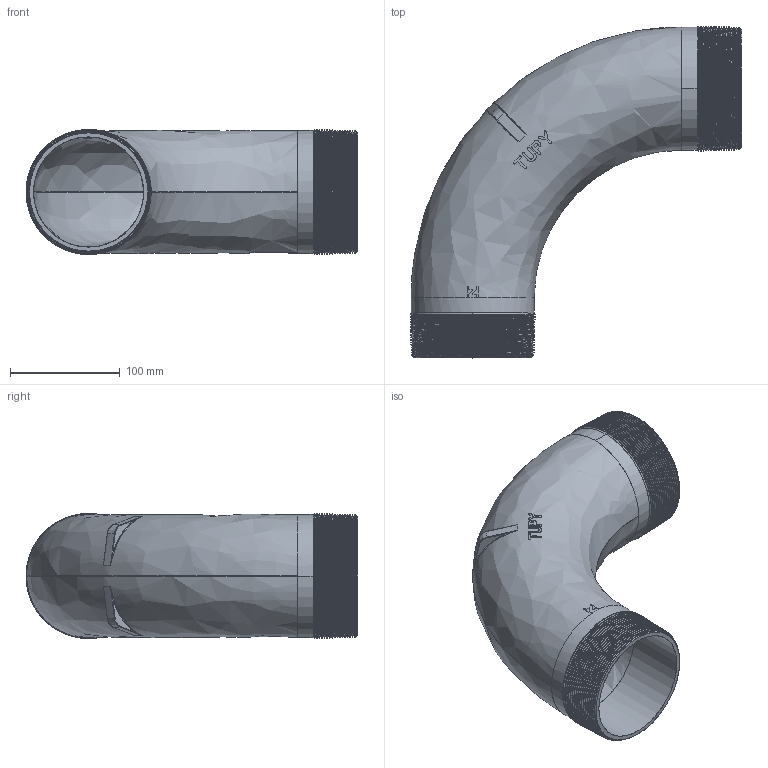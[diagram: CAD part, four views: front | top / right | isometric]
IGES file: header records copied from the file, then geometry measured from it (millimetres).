
Start section: SolidWorks IGES file using analytic representation for surfaces
Global section: file name: C:\Users\Joel Rosa\Desktop\Tubulação\12-25-OK\12-25-014.IGS; native system: SolidWorks 2011; preprocessor: SolidWorks 2011; author: Joel Rosa; date: 121207.021739; units: millimetre
Bounding box: 301.93 x 301.93 x 113.86 mm (x, y, z)
Surface area: 295101.5 mm2 (no closed solid volume)
Topology: 0 solids, 0 shells, 507 faces, 3472 edges, 3468 vertices
Faces by surface type: bspline 344, revolution 163
